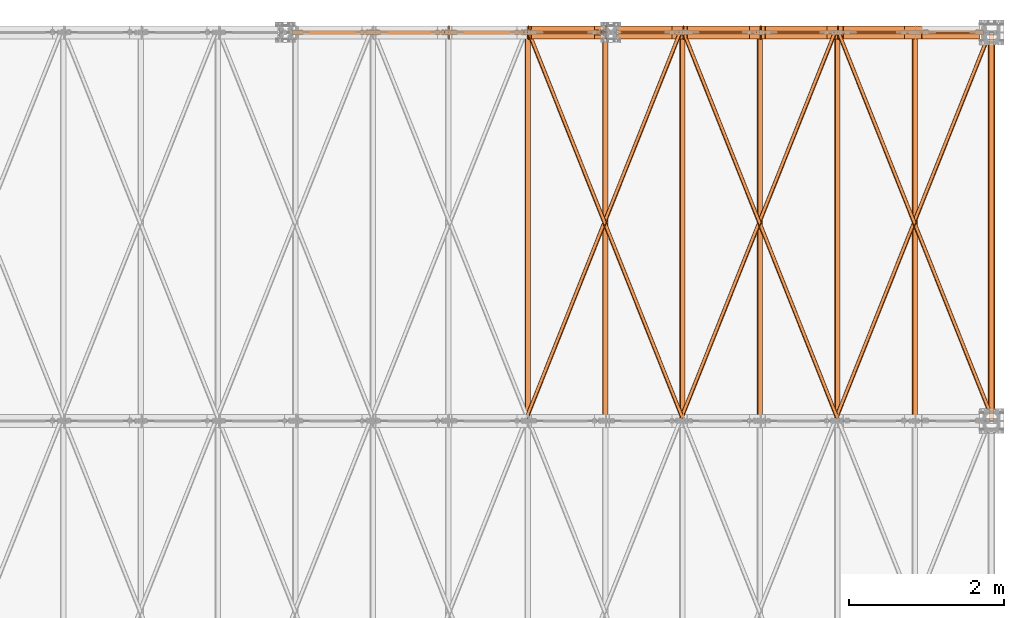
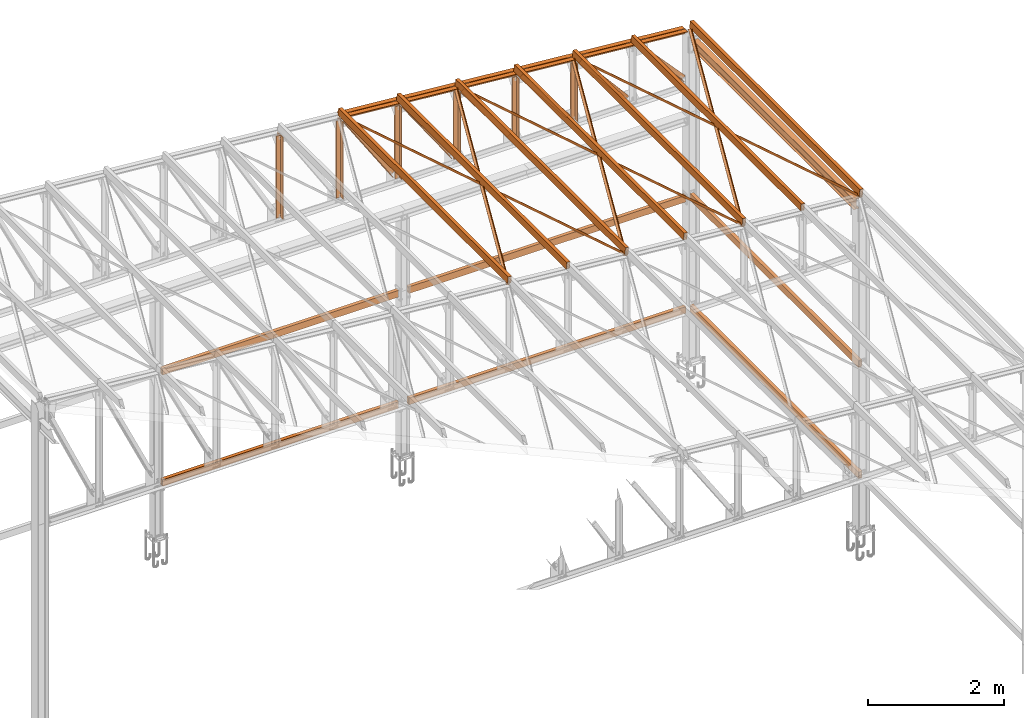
# One storey, part 245 of 251: 45 proxies.
"""IFC4 building model written with IfcOpenShell, lengths in metres."""

from ifc_helpers import new_model, si_unit, frame, frame_2d, origin_with_axes, origin_2d_with_axis, place, context, project, spatial, polyline, hollow_rectangle, i_section, l_section, outline, extrude, clip, halfspace, material, material_profile, profile_set, profile_usage, type_object, element, save


model = new_model("IFC4")

# Units and contexts
model_context = context("Model", 3, precision=1e-05, world=origin_with_axes())
ifc_project = project(units=[si_unit("LENGTHUNIT", "METRE"), si_unit("AREAUNIT", "SQUARE_METRE"), si_unit("VOLUMEUNIT", "CUBIC_METRE"), si_unit("MASSUNIT", "GRAM", prefix="KILO"), si_unit("TIMEUNIT", "SECOND"), si_unit("PLANEANGLEUNIT", "RADIAN"), si_unit("SOLIDANGLEUNIT", "STERADIAN"), si_unit("THERMODYNAMICTEMPERATUREUNIT", "DEGREE_CELSIUS")], contexts=[model_context])

# Site, building, storey
placement_1 = place(None, origin_with_axes())
site = spatial("IfcSite", under=ifc_project, at=placement_1, Name="Italia", CompositionType="ELEMENT")
building = spatial("IfcBuilding", under=site, at=placement_1, Name="Deposito", CompositionType="ELEMENT")
storey = spatial("IfcBuildingStorey", under=building, at=placement_1, Name="Storey 0", CompositionType="ELEMENT", Elevation=0.0)

# Proxies
ifc_material = material(Name="Acciaio", Category="Acciaio")
ifc_material_profile = material_profile(ifc_material, i_section(OverallWidth=0.2, OverallDepth=0.19, WebThickness=0.006, FlangeThickness=0.01, FilletRadius=0.018, at=origin_2d_with_axis()), Name="7 PILASTRO HEA200")
ifc_profile_set = profile_set([ifc_material_profile])
ifc_profile_usage_1 = profile_usage(ifc_profile_set, cardinal=2)
member_type_1 = type_object("IfcMemberType", Name="5 2L80x8", PredefinedType="MEMBER", material=ifc_profile_usage_1)
placement_2 = place(placement_1, origin_with_axes())
proxy_1_placement = place(placement_2, origin_with_axes())
element("IfcBuildingElementProxy", 1, at=proxy_1_placement, inside=storey, type_object=member_type_1, Name="230075", context=model_context, shape_type="SweptSolid", body=[
    extrude(outline(polyline([(0.0, 0.0), (0.0799999, 0.0), (0.0799999, -0.00800085), (0.00800133, -0.00800085), (0.00800133, -0.0800004), (0.0, -0.0800004), (0.0, 0.0)])), frame((14.0298, 20.005, 6.54493), z_axis=(0.99619472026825, 0.0, -0.087155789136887), x_axis=(0.0, 1.0, 0.0)), (0.0, 0.0, 1.0), 5.89033),
])
ifc_profile_usage_2 = profile_usage(ifc_profile_set, cardinal=2)
member_type_2 = type_object("IfcMemberType", Name="5 2L80x8", PredefinedType="MEMBER", material=ifc_profile_usage_2)
proxy_2_placement = place(placement_2, origin_with_axes())
element("IfcBuildingElementProxy", 2, at=proxy_2_placement, inside=storey, type_object=member_type_2, Name="230075", context=model_context, shape_type="SweptSolid", body=[
    extrude(outline(polyline([(0.0, 0.0), (-0.00800133, 0.0), (-0.00800133, 0.0719995), (-0.0799999, 0.0719995), (-0.0799999, 0.0800004), (0.0, 0.0800004), (0.0, 0.0)])), frame((14.0228, 19.995, 6.46523), z_axis=(0.99619472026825, 0.0, -0.087155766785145), x_axis=(0.0, 1.0, 0.0)), (0.0, 0.0, 1.0), 5.89033),
])
ifc_profile_usage_3 = profile_usage(ifc_profile_set, cardinal=1)
member_type_3 = type_object("IfcMemberType", Name="5 2L80x8", PredefinedType="MEMBER", material=ifc_profile_usage_3)
proxy_3_placement = place(placement_2, origin_with_axes())
element("IfcBuildingElementProxy", 3, at=proxy_3_placement, inside=storey, type_object=member_type_3, Name="100005", context=model_context, shape_type="SweptSolid", body=[
    extrude(outline(polyline([(0.0, 0.0), (-0.0799999, 0.0), (-0.0799999, 0.00799942), (-0.00800133, 0.00799942), (-0.00800133, 0.079998), (0.0, 0.079998), (0.0, 0.0)])), frame((19.0971, 19.995, 5.95199), z_axis=(0.675589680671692, 0.0, -0.737277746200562), x_axis=(0.0, 1.0, 0.0)), (0.0, 0.0, 1.0), 1.09364),
])
ifc_profile_usage_4 = profile_usage(ifc_profile_set, cardinal=1)
member_type_4 = type_object("IfcMemberType", Name="5 2L80x8", PredefinedType="MEMBER", material=ifc_profile_usage_4)
proxy_4_placement = place(placement_2, origin_with_axes())
element("IfcBuildingElementProxy", 4, at=proxy_4_placement, inside=storey, type_object=member_type_4, Name="110005", context=model_context, shape_type="SweptSolid", body=[
    extrude(outline(polyline([(0.0, 0.0), (-0.0799999, 0.0), (-0.0799999, 0.00799942), (-0.00800133, 0.00799942), (-0.00800133, 0.079998), (0.0, 0.079998), (0.0, 0.0)])), frame((18.0901, 19.995, 6.04221), z_axis=(0.646905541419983, 0.0, -0.762570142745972), x_axis=(0.0, 1.0, 0.0)), (0.0, 0.0, 1.0), 1.21365),
])
ifc_profile_usage_5 = profile_usage(ifc_profile_set, cardinal=1)
member_type_5 = type_object("IfcMemberType", Name="5 2L80x8", PredefinedType="MEMBER", material=ifc_profile_usage_5)
proxy_5_placement = place(placement_2, origin_with_axes())
element("IfcBuildingElementProxy", 5, at=proxy_5_placement, inside=storey, type_object=member_type_5, Name="110005", context=model_context, shape_type="SweptSolid", body=[
    extrude(outline(polyline([(0.0, 0.0), (0.00800133, 0.0), (0.00800133, -0.0720005), (0.0799999, -0.0720005), (0.0799999, -0.0799999), (0.0, -0.0799999), (0.0, 0.0)])), frame((18.1512, 20.005, 6.09396), z_axis=(0.646905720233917, 0.0, -0.762569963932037), x_axis=(0.0, 1.0, 0.0)), (0.0, 0.0, 1.0), 1.21365),
])
ifc_profile_usage_6 = profile_usage(ifc_profile_set, cardinal=1)
member_type_6 = type_object("IfcMemberType", Name="5 2L80x8", PredefinedType="MEMBER", material=ifc_profile_usage_6)
proxy_6_placement = place(placement_2, origin_with_axes())
element("IfcBuildingElementProxy", 6, at=proxy_6_placement, inside=storey, type_object=member_type_6, Name="77", context=model_context, shape_type="SweptSolid", body=[
    extrude(outline(polyline([(0.0, 0.0), (-0.0799999, 0.0), (-0.0799999, 0.00799942), (-0.00800133, 0.00799942), (-0.00800133, 0.0799999), (0.0, 0.0799999), (0.0, 0.0)])), frame((18.0301, 19.995, 5.06753), z_axis=(0.0, 0.0, 1.0), x_axis=(0.0, 1.0, 0.0)), (0.0, 0.0, 1.0), 1.03702),
])
ifc_profile_usage_7 = profile_usage(ifc_profile_set, cardinal=1)
member_type_7 = type_object("IfcMemberType", Name="5 2L80x8", PredefinedType="MEMBER", material=ifc_profile_usage_7)
proxy_7_placement = place(placement_2, origin_with_axes())
element("IfcBuildingElementProxy", 7, at=proxy_7_placement, inside=storey, type_object=member_type_7, Name="77", context=model_context, shape_type="SweptSolid", body=[
    extrude(outline(polyline([(0.0, 0.0), (0.00800133, 0.0), (0.00800133, -0.0720005), (0.0799999, -0.0720005), (0.0799999, -0.0799999), (0.0, -0.0799999), (0.0, 0.0)])), frame((17.9501, 20.005, 5.06753), z_axis=(0.0, 0.0, 1.0), x_axis=(0.0, 1.0, 0.0)), (0.0, 0.0, 1.0), 1.03702),
])
ifc_profile_usage_8 = profile_usage(ifc_profile_set, cardinal=1)
member_type_8 = type_object("IfcMemberType", Name="5 2L80x8", PredefinedType="MEMBER", material=ifc_profile_usage_8)
proxy_8_placement = place(placement_2, origin_with_axes())
element("IfcBuildingElementProxy", 8, at=proxy_8_placement, inside=storey, type_object=member_type_8, Name="120005", context=model_context, shape_type="SweptSolid", body=[
    extrude(outline(polyline([(0.0, 0.0), (-0.0799999, 0.0), (-0.0799999, 0.00799942), (-0.00800133, 0.00799942), (-0.00800133, 0.0799999), (0.0, 0.0799999), (0.0, 0.0)])), frame((17.0848, 19.995, 6.13218), z_axis=(0.619758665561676, 0.0, -0.784792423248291), x_axis=(0.0, 1.0, 0.0)), (0.0, 0.0, 1.0), 1.27867),
])
ifc_profile_usage_9 = profile_usage(ifc_profile_set, cardinal=1)
member_type_9 = type_object("IfcMemberType", Name="5 2L80x8", PredefinedType="MEMBER", material=ifc_profile_usage_9)
proxy_9_placement = place(placement_2, origin_with_axes())
element("IfcBuildingElementProxy", 9, at=proxy_9_placement, inside=storey, type_object=member_type_9, Name="120005", context=model_context, shape_type="SweptSolid", body=[
    extrude(outline(polyline([(0.0, 0.0), (0.00800133, 0.0), (0.00800133, -0.0720005), (0.0799999, -0.0720005), (0.0799999, -0.0799999), (0.0, -0.0799999), (0.0, 0.0)])), frame((17.1476, 20.005, 6.18176), z_axis=(0.619759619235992, 0.0, -0.784791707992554), x_axis=(0.0, 1.0, 0.0)), (0.0, 0.0, 1.0), 1.27867),
])
ifc_profile_usage_10 = profile_usage(ifc_profile_set, cardinal=1)
member_type_10 = type_object("IfcMemberType", Name="5 2L80x8", PredefinedType="MEMBER", material=ifc_profile_usage_10)
proxy_10_placement = place(placement_2, origin_with_axes())
element("IfcBuildingElementProxy", 10, at=proxy_10_placement, inside=storey, type_object=member_type_10, Name="76", context=model_context, shape_type="SweptSolid", body=[
    extrude(outline(polyline([(0.0, 0.0), (-0.0799999, 0.0), (-0.0799999, 0.00799942), (-0.00800133, 0.00799942), (-0.00800133, 0.0799999), (0.0, 0.0799999), (0.0, 0.0)])), frame((17.0339, 19.995, 5.06753), z_axis=(0.0, 0.0, 1.0), x_axis=(0.0, 1.0, 0.0)), (0.0, 0.0, 1.0), 1.12417),
])
ifc_profile_usage_11 = profile_usage(ifc_profile_set, cardinal=1)
member_type_11 = type_object("IfcMemberType", Name="5 2L80x8", PredefinedType="MEMBER", material=ifc_profile_usage_11)
proxy_11_placement = place(placement_2, origin_with_axes())
element("IfcBuildingElementProxy", 11, at=proxy_11_placement, inside=storey, type_object=member_type_11, Name="76", context=model_context, shape_type="SweptSolid", body=[
    extrude(outline(polyline([(0.0, 0.0), (0.00800133, 0.0), (0.00800133, -0.0720005), (0.0799999, -0.0720005), (0.0799999, -0.0799999), (0.0, -0.0799999), (0.0, 0.0)])), frame((16.9539, 20.005, 5.06753), z_axis=(0.0, 0.0, 1.0), x_axis=(0.0, 1.0, 0.0)), (0.0, 0.0, 1.0), 1.12417),
])
ifc_profile_usage_12 = profile_usage(ifc_profile_set, cardinal=1)
member_type_12 = type_object("IfcMemberType", Name="5 2L80x8", PredefinedType="MEMBER", material=ifc_profile_usage_12)
proxy_12_placement = place(placement_2, origin_with_axes())
element("IfcBuildingElementProxy", 12, at=proxy_12_placement, inside=storey, type_object=member_type_12, Name="130005", context=model_context, shape_type="SweptSolid", body=[
    extrude(outline(polyline([(0.0, 0.0), (-0.0799999, 0.0), (-0.0799999, 0.00800133), (-0.00800133, 0.00800133), (-0.00800133, 0.0800018), (0.0, 0.0800018), (0.0, 0.0)])), frame((16.0808, 19.995, 6.22193), z_axis=(0.594154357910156, 0.0, -0.804351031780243), x_axis=(0.0, 1.0, 0.0)), (0.0, 0.0, 1.0), 1.3443),
])
ifc_profile_usage_13 = profile_usage(ifc_profile_set, cardinal=1)
member_type_13 = type_object("IfcMemberType", Name="5 2L80x8", PredefinedType="MEMBER", material=ifc_profile_usage_13)
proxy_13_placement = place(placement_2, origin_with_axes())
element("IfcBuildingElementProxy", 13, at=proxy_13_placement, inside=storey, type_object=member_type_13, Name="130005", context=model_context, shape_type="SweptSolid", body=[
    extrude(outline(polyline([(0.0, 0.0), (0.00800133, 0.0), (0.00800133, -0.0720005), (0.0799999, -0.0720005), (0.0799999, -0.0799999), (0.0, -0.0799999), (0.0, 0.0)])), frame((16.1452, 20.005, 6.26946), z_axis=(0.594154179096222, 0.0, -0.804351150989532), x_axis=(0.0, 1.0, 0.0)), (0.0, 0.0, 1.0), 1.3443),
])
ifc_profile_usage_14 = profile_usage(ifc_profile_set, cardinal=1)
member_type_14 = type_object("IfcMemberType", Name="5 2L80x8", PredefinedType="MEMBER", material=ifc_profile_usage_14)
proxy_14_placement = place(placement_2, origin_with_axes())
element("IfcBuildingElementProxy", 14, at=proxy_14_placement, inside=storey, type_object=member_type_14, Name="75", context=model_context, shape_type="SweptSolid", body=[
    extrude(outline(polyline([(0.0, 0.0), (-0.0799999, 0.0), (-0.0799999, 0.00799942), (-0.00800133, 0.00799942), (-0.00800133, 0.079999), (0.0, 0.079999), (0.0, 0.0)])), frame((16.0377, 19.995, 5.06753), z_axis=(0.0, 0.0, 1.0), x_axis=(0.0, 1.0, 0.0)), (0.0, 0.0, 1.0), 1.21133),
])
ifc_profile_usage_15 = profile_usage(ifc_profile_set, cardinal=1)
member_type_15 = type_object("IfcMemberType", Name="5 2L80x8", PredefinedType="MEMBER", material=ifc_profile_usage_15)
proxy_15_placement = place(placement_2, origin_with_axes())
element("IfcBuildingElementProxy", 15, at=proxy_15_placement, inside=storey, type_object=member_type_15, Name="75", context=model_context, shape_type="SweptSolid", body=[
    extrude(outline(polyline([(0.0, 0.0), (0.00800133, 0.0), (0.00800133, -0.0719995), (0.0799999, -0.0719995), (0.0799999, -0.079999), (0.0, -0.079999), (0.0, 0.0)])), frame((15.9577, 20.005, 5.06753), z_axis=(0.0, 0.0, 1.0), x_axis=(0.0, 1.0, 0.0)), (0.0, 0.0, 1.0), 1.21133),
])
ifc_profile_usage_16 = profile_usage(ifc_profile_set, cardinal=1)
member_type_16 = type_object("IfcMemberType", Name="5 2L80x8", PredefinedType="MEMBER", material=ifc_profile_usage_16)
proxy_16_placement = place(placement_2, origin_with_axes())
element("IfcBuildingElementProxy", 16, at=proxy_16_placement, inside=storey, type_object=member_type_16, Name="140005", context=model_context, shape_type="SweptSolid", body=[
    extrude(outline(polyline([(0.0, 0.0), (-0.0799999, 0.0), (-0.0799999, 0.00800037), (-0.00800133, 0.00800037), (-0.00800133, 0.0800018), (0.0, 0.0800018), (0.0, 0.0)])), frame((15.0779, 19.995, 6.31149), z_axis=(0.570057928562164, 0.0, -0.821604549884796), x_axis=(0.0, 1.0, 0.0)), (0.0, 0.0, 1.0), 1.41056),
])
ifc_profile_usage_17 = profile_usage(ifc_profile_set, cardinal=1)
member_type_17 = type_object("IfcMemberType", Name="5 2L80x8", PredefinedType="MEMBER", material=ifc_profile_usage_17)
proxy_17_placement = place(placement_2, origin_with_axes())
element("IfcBuildingElementProxy", 17, at=proxy_17_placement, inside=storey, type_object=member_type_17, Name="140005", context=model_context, shape_type="SweptSolid", body=[
    extrude(outline(polyline([(0.0, 0.0), (0.00800133, 0.0), (0.00800133, -0.0720024), (0.0799999, -0.0720024), (0.0799999, -0.0800018), (0.0, -0.0800018), (0.0, 0.0)])), frame((15.1436, 20.005, 6.35709), z_axis=(0.570057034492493, 0.0, -0.821605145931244), x_axis=(0.0, 1.0, 0.0)), (0.0, 0.0, 1.0), 1.41056),
])
ifc_profile_usage_18 = profile_usage(ifc_profile_set, cardinal=1)
member_type_18 = type_object("IfcMemberType", Name="5 2L80x8", PredefinedType="MEMBER", material=ifc_profile_usage_18)
proxy_18_placement = place(placement_2, origin_with_axes())
element("IfcBuildingElementProxy", 18, at=proxy_18_placement, inside=storey, type_object=member_type_18, Name="73", context=model_context, shape_type="SweptSolid", body=[
    extrude(outline(polyline([(0.0, 0.0), (-0.0799999, 0.0), (-0.0799999, 0.00800037), (-0.00800133, 0.00800037), (-0.00800133, 0.0799999), (0.0, 0.0799999), (0.0, 0.0)])), frame((15.0415, 19.995, 5.06753), z_axis=(0.0, 0.0, 1.0), x_axis=(0.0, 1.0, 0.0)), (0.0, 0.0, 1.0), 1.29848),
])
ifc_profile_usage_19 = profile_usage(ifc_profile_set, cardinal=1)
member_type_19 = type_object("IfcMemberType", Name="5 2L80x8", PredefinedType="MEMBER", material=ifc_profile_usage_19)
proxy_19_placement = place(placement_2, origin_with_axes())
element("IfcBuildingElementProxy", 19, at=proxy_19_placement, inside=storey, type_object=member_type_19, Name="73", context=model_context, shape_type="SweptSolid", body=[
    extrude(outline(polyline([(0.0, 0.0), (0.00800133, 0.0), (0.00800133, -0.0719995), (0.0799999, -0.0719995), (0.0799999, -0.0799999), (0.0, -0.0799999), (0.0, 0.0)])), frame((14.9615, 20.005, 5.06753), z_axis=(0.0, 0.0, 1.0), x_axis=(0.0, 1.0, 0.0)), (0.0, 0.0, 1.0), 1.29848),
])
ifc_profile_usage_20 = profile_usage(ifc_profile_set, cardinal=1)
member_type_20 = type_object("IfcMemberType", Name="5 2L80x8", PredefinedType="MEMBER", material=ifc_profile_usage_20)
proxy_20_placement = place(placement_2, origin_with_axes())
element("IfcBuildingElementProxy", 20, at=proxy_20_placement, inside=storey, type_object=member_type_20, Name="150005", context=model_context, shape_type="SweptSolid", body=[
    extrude(outline(polyline([(0.0, 0.0), (-0.0799999, 0.0), (-0.0799999, 0.00800037), (-0.00800133, 0.00800037), (-0.00800133, 0.0800018), (0.0, 0.0800018), (0.0, 0.0)])), frame((14.0758, 19.995, 6.40086), z_axis=(0.547415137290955, 0.0, -0.836861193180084), x_axis=(0.0, 1.0, 0.0)), (0.0, 0.0, 1.0), 1.47743),
])
ifc_profile_usage_21 = profile_usage(ifc_profile_set, cardinal=1)
member_type_21 = type_object("IfcMemberType", Name="5 2L80x8", PredefinedType="MEMBER", material=ifc_profile_usage_21)
proxy_21_placement = place(placement_2, origin_with_axes())
element("IfcBuildingElementProxy", 21, at=proxy_21_placement, inside=storey, type_object=member_type_21, Name="150005", context=model_context, shape_type="SweptSolid", body=[
    extrude(outline(polyline([(0.0, 0.0), (0.00800133, 0.0), (0.00800133, -0.0720005), (0.0799999, -0.0720005), (0.0799999, -0.0800009), (0.0, -0.0800009), (0.0, 0.0)])), frame((14.1427, 20.005, 6.44465), z_axis=(0.547414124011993, 0.0, -0.836861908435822), x_axis=(0.0, 1.0, 0.0)), (0.0, 0.0, 1.0), 1.47743),
])
ifc_profile_usage_22 = profile_usage(ifc_profile_set, cardinal=1)
member_type_22 = type_object("IfcMemberType", Name="5 2L80x8", PredefinedType="MEMBER", material=ifc_profile_usage_22)
proxy_22_placement = place(placement_2, origin_with_axes())
element("IfcBuildingElementProxy", 22, at=proxy_22_placement, inside=storey, type_object=member_type_22, Name="72", context=model_context, shape_type="SweptSolid", body=[
    extrude(outline(polyline([(0.0, 0.0), (-0.0799999, 0.0), (-0.0799999, 0.00800037), (-0.00800133, 0.00800037), (-0.00800133, 0.0799999), (0.0, 0.0799999), (0.0, 0.0)])), frame((14.0453, 19.995, 5.06753), z_axis=(0.0, 0.0, 1.0), x_axis=(0.0, 1.0, 0.0)), (0.0, 0.0, 1.0), 1.38564),
])
ifc_profile_usage_23 = profile_usage(ifc_profile_set, cardinal=1)
member_type_23 = type_object("IfcMemberType", Name="5 2L80x8", PredefinedType="MEMBER", material=ifc_profile_usage_23)
proxy_23_placement = place(placement_2, origin_with_axes())
element("IfcBuildingElementProxy", 23, at=proxy_23_placement, inside=storey, type_object=member_type_23, Name="72", context=model_context, shape_type="SweptSolid", body=[
    extrude(outline(polyline([(0.0, 0.0), (0.00800133, 0.0), (0.00800133, -0.0719995), (0.0799999, -0.0719995), (0.0799999, -0.0799999), (0.0, -0.0799999), (0.0, 0.0)])), frame((13.9653, 20.005, 5.06753), z_axis=(0.0, 0.0, 1.0), x_axis=(0.0, 1.0, 0.0)), (0.0, 0.0, 1.0), 1.38564),
])
ifc_profile_usage_24 = profile_usage(ifc_profile_set, cardinal=1)
member_type_24 = type_object("IfcMemberType", Name="5 2L80x8", PredefinedType="MEMBER", material=ifc_profile_usage_24)
proxy_24_placement = place(placement_2, origin_with_axes())
element("IfcBuildingElementProxy", 24, at=proxy_24_placement, inside=storey, type_object=member_type_24, Name="71", context=model_context, shape_type="SweptSolid", body=[
    extrude(outline(polyline([(0.0, 0.0), (-0.0799999, 0.0), (-0.0799999, 0.00800037), (-0.00800133, 0.00800037), (-0.00800133, 0.0799999), (0.0, 0.0799999), (0.0, 0.0)])), frame((13.0225, 19.995, 5.06753), z_axis=(0.0, 0.0, 1.0), x_axis=(0.0, 1.0, 0.0)), (0.0, 0.0, 1.0), 1.47286),
])
ifc_profile_usage_25 = profile_usage(ifc_profile_set, cardinal=1)
member_type_25 = type_object("IfcMemberType", Name="5 2L80x8", PredefinedType="MEMBER", material=ifc_profile_usage_25)
proxy_25_placement = place(placement_2, origin_with_axes())
element("IfcBuildingElementProxy", 25, at=proxy_25_placement, inside=storey, type_object=member_type_25, Name="71", context=model_context, shape_type="SweptSolid", body=[
    extrude(outline(polyline([(0.0, 0.0), (0.00800133, 0.0), (0.00800133, -0.0719995), (0.0799999, -0.0719995), (0.0799999, -0.0799999), (0.0, -0.0799999), (0.0, 0.0)])), frame((12.9425, 20.005, 5.06753), z_axis=(0.0, 0.0, 1.0), x_axis=(0.0, 1.0, 0.0)), (0.0, 0.0, 1.0), 1.47286),
])
ifc_profile_usage_26 = profile_usage(ifc_profile_set, cardinal=8)
member_type_26 = type_object("IfcMemberType", Name="1 RHS120x60x8", PredefinedType="MEMBER", material=ifc_profile_usage_26)
proxy_26_placement = place(placement_2, origin_with_axes())
element("IfcBuildingElementProxy", 26, at=proxy_26_placement, inside=storey, type_object=member_type_26, Name="150029", context=model_context, shape_type="SweptSolid", body=[
    extrude(hollow_rectangle(XDim=0.06, YDim=0.12, WallThickness=0.008, at=frame_2d((0.0, 0.0), x_axis=(0.996194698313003, 0.087155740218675))), frame((14.03, 15.0, 6.60517), z_axis=(0.0, 1.0, 0.0), x_axis=(-1.0, 0.0, 0.0)), (0.0, 0.0, 1.0), 5.0),
])
ifc_profile_usage_27 = profile_usage(ifc_profile_set, cardinal=8)
member_type_27 = type_object("IfcMemberType", Name="1 RHS120x60x8", PredefinedType="MEMBER", material=ifc_profile_usage_27)
proxy_27_placement = place(placement_2, origin_with_axes())
element("IfcBuildingElementProxy", 27, at=proxy_27_placement, inside=storey, type_object=member_type_27, Name="130032", context=model_context, shape_type="SweptSolid", body=[
    extrude(hollow_rectangle(XDim=0.06, YDim=0.12, WallThickness=0.008, at=frame_2d((0.0, 0.0), x_axis=(0.996194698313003, 0.087155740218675))), frame((16.0224, 15.0, 6.43086), z_axis=(0.0, 1.0, 0.0), x_axis=(-1.0, 0.0, 0.0)), (0.0, 0.0, 1.0), 5.0),
])
ifc_profile_usage_28 = profile_usage(ifc_profile_set, cardinal=8)
member_type_28 = type_object("IfcMemberType", Name="1 RHS120x60x8", PredefinedType="MEMBER", material=ifc_profile_usage_28)
proxy_28_placement = place(placement_2, origin_with_axes())
element("IfcBuildingElementProxy", 28, at=proxy_28_placement, inside=storey, type_object=member_type_28, Name="110035", context=model_context, shape_type="SweptSolid", body=[
    extrude(hollow_rectangle(XDim=0.06, YDim=0.12, WallThickness=0.008, at=frame_2d((0.0, 0.0), x_axis=(0.996194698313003, 0.087155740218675))), frame((18.0148, 15.0, 6.25655), z_axis=(0.0, 1.0, 0.0), x_axis=(-1.0, 0.0, 0.0)), (0.0, 0.0, 1.0), 5.0),
])
ifc_profile_usage_29 = profile_usage(ifc_profile_set, cardinal=8)
member_type_29 = type_object("IfcMemberType", Name="1 RHS120x60x8", PredefinedType="MEMBER", material=ifc_profile_usage_29)
proxy_29_placement = place(placement_2, origin_with_axes())
element("IfcBuildingElementProxy", 29, at=proxy_29_placement, inside=storey, type_object=member_type_29, Name="90037", context=model_context, shape_type="SweptSolid", body=[
    extrude(hollow_rectangle(XDim=0.06, YDim=0.12, WallThickness=0.008, at=frame_2d((0.0, 0.0), x_axis=(0.996194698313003, 0.087155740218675))), frame((20.0072, 15.0, 6.08224), z_axis=(0.0, 1.0, 0.0), x_axis=(-1.0, 0.0, 0.0)), (0.0, 0.0, 1.0), 5.0),
])
ifc_profile_usage_30 = profile_usage(ifc_profile_set, cardinal=8)
member_type_30 = type_object("IfcMemberType", Name="1 RHS120x60x8", PredefinedType="MEMBER", material=ifc_profile_usage_30)
proxy_30_placement = place(placement_2, origin_with_axes())
element("IfcBuildingElementProxy", 30, at=proxy_30_placement, inside=storey, type_object=member_type_30, Name="140030", context=model_context, shape_type="SweptSolid", body=[
    extrude(hollow_rectangle(XDim=0.06, YDim=0.12, WallThickness=0.008, at=frame_2d((0.0, 0.0), x_axis=(0.996194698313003, 0.087155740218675))), frame((15.0262, 15.0, 6.51801), z_axis=(0.0, 1.0, 0.0), x_axis=(-1.0, 0.0, 0.0)), (0.0, 0.0, 1.0), 5.0),
])
ifc_profile_usage_31 = profile_usage(ifc_profile_set, cardinal=8)
member_type_31 = type_object("IfcMemberType", Name="1 RHS120x60x8", PredefinedType="MEMBER", material=ifc_profile_usage_31)
proxy_31_placement = place(placement_2, origin_with_axes())
element("IfcBuildingElementProxy", 31, at=proxy_31_placement, inside=storey, type_object=member_type_31, Name="120033", context=model_context, shape_type="SweptSolid", body=[
    extrude(hollow_rectangle(XDim=0.06, YDim=0.12, WallThickness=0.008, at=frame_2d((0.0, 0.0), x_axis=(0.996194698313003, 0.087155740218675))), frame((17.0186, 15.0, 6.3437), z_axis=(0.0, 1.0, 0.0), x_axis=(-1.0, 0.0, 0.0)), (0.0, 0.0, 1.0), 5.0),
])
ifc_profile_usage_32 = profile_usage(ifc_profile_set, cardinal=8)
member_type_32 = type_object("IfcMemberType", Name="1 RHS120x60x8", PredefinedType="MEMBER", material=ifc_profile_usage_32)
proxy_32_placement = place(placement_2, origin_with_axes())
element("IfcBuildingElementProxy", 32, at=proxy_32_placement, inside=storey, type_object=member_type_32, Name="100036", context=model_context, shape_type="SweptSolid", body=[
    extrude(hollow_rectangle(XDim=0.06, YDim=0.12, WallThickness=0.008, at=frame_2d((0.0, 0.0), x_axis=(0.996194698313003, 0.087155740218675))), frame((19.011, 15.0, 6.16939), z_axis=(0.0, 1.0, 0.0), x_axis=(-1.0, 0.0, 0.0)), (0.0, 0.0, 1.0), 5.0),
])
ifc_profile_usage_33 = profile_usage(ifc_profile_set, cardinal=5)
member_type_33 = type_object("IfcMemberType", Name="1 RHS120x60x8", PredefinedType="MEMBER", material=ifc_profile_usage_33)
proxy_33_placement = place(placement_2, frame((20.0, 12.5, 1.0), z_axis=(0.0, 0.0, 1.0), x_axis=(1.0, 0.0, 0.0)))
element("IfcBuildingElementProxy", 33, at=proxy_33_placement, inside=storey, type_object=member_type_33, Name="280177", context=model_context, shape_type="Clipping", body=[
    clip(clip(extrude(hollow_rectangle(XDim=0.06, YDim=0.12, WallThickness=0.008, at=origin_2d_with_axis()), frame((0.0, 0.0, 0.0), z_axis=(0.0, 1.0, 0.0), x_axis=(-1.0, 0.0, 0.0)), (0.0, 0.0, 1.0), 10.0), halfspace(frame((-0.00519943, 2.518, 0.0112001), z_axis=(0.0, -1.0, 0.0), x_axis=(1.0, 0.0, 0.0)), False)), halfspace(frame((-0.00519943, 7.482, 0.0112001), z_axis=(0.0, -1.0, 0.0), x_axis=(1.0, 0.0, 0.0)), True)),
])
ifc_profile_usage_34 = profile_usage(ifc_profile_set, cardinal=5)
member_type_34 = type_object("IfcMemberType", Name="1 RHS120x60x8", PredefinedType="MEMBER", material=ifc_profile_usage_34)
proxy_34_placement = place(placement_2, frame((20.0, 12.5, 3.0), z_axis=(0.0, 0.0, 1.0), x_axis=(1.0, 0.0, 0.0)))
element("IfcBuildingElementProxy", 34, at=proxy_34_placement, inside=storey, type_object=member_type_34, Name="280107", context=model_context, shape_type="Clipping", body=[
    clip(clip(extrude(hollow_rectangle(XDim=0.06, YDim=0.12, WallThickness=0.008, at=origin_2d_with_axis()), frame((0.0, 0.0, 0.0), z_axis=(0.0, 1.0, 0.0), x_axis=(-1.0, 0.0, 0.0)), (0.0, 0.0, 1.0), 10.0), halfspace(frame((-0.00519943, 2.518, 0.0112), z_axis=(0.0, -1.0, 0.0), x_axis=(1.0, 0.0, 0.0)), False)), halfspace(frame((-0.00519943, 7.482, 0.0112), z_axis=(0.0, -1.0, 0.0), x_axis=(1.0, 0.0, 0.0)), True)),
])
ifc_profile_usage_35 = profile_usage(ifc_profile_set, cardinal=5)
member_type_35 = type_object("IfcMemberType", Name="1 RHS120x60x8", PredefinedType="MEMBER", material=ifc_profile_usage_35)
proxy_35_placement = place(placement_2, frame((12.65000057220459, 20.0, 3.0), z_axis=(0.0, 0.0, 1.0), x_axis=(1.0, 0.0, 0.0)))
element("IfcBuildingElementProxy", 35, at=proxy_35_placement, inside=storey, type_object=member_type_35, Name="280075", context=model_context, shape_type="Clipping", body=[
    clip(clip(extrude(hollow_rectangle(XDim=0.06, YDim=0.12, WallThickness=0.008, at=origin_2d_with_axis()), frame((0.0, 0.0, 0.0), z_axis=(1.0, 0.0, 0.0), x_axis=(0.0, 1.0, 0.0)), (0.0, 0.0, 1.0), 9.8), halfspace(frame((2.536, 0.00519943, 0.0112), z_axis=(-1.0, 0.0, 0.0), x_axis=(0.0, -1.0, 0.0)), False)), halfspace(frame((7.245, 0.00519943, 0.0112), z_axis=(-1.0, 0.0, 0.0), x_axis=(0.0, -1.0, 0.0)), True)),
])
ifc_profile_usage_36 = profile_usage(ifc_profile_set, cardinal=5)
member_type_36 = type_object("IfcMemberType", Name="1 RHS120x60x8", PredefinedType="MEMBER", material=ifc_profile_usage_36)
proxy_36_placement = place(placement_2, frame((8.822500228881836, 20.0, 1.0), z_axis=(0.0, 0.0, 1.0), x_axis=(1.0, 0.0, 0.0)))
element("IfcBuildingElementProxy", 36, at=proxy_36_placement, inside=storey, type_object=member_type_36, Name="280005", context=model_context, shape_type="Clipping", body=[
    clip(clip(extrude(hollow_rectangle(XDim=0.06, YDim=0.12, WallThickness=0.008, at=origin_2d_with_axis()), frame((0.0, 0.0, 0.0), z_axis=(1.0, 0.0, 0.0), x_axis=(0.0, 1.0, 0.0)), (0.0, 0.0, 1.0), 8.37), halfspace(frame((2.1785, 0.00519943, 0.0112001), z_axis=(-1.0, 0.0, 0.0), x_axis=(0.0, -1.0, 0.0)), False)), halfspace(frame((6.1915, 0.00519943, 0.0112001), z_axis=(-1.0, 0.0, 0.0), x_axis=(0.0, -1.0, 0.0)), True)),
])
ifc_profile_usage_37 = profile_usage(ifc_profile_set, cardinal=5)
member_type_37 = type_object("IfcMemberType", Name="1 RHS120x60x8", PredefinedType="MEMBER", material=ifc_profile_usage_37)
proxy_37_placement = place(placement_2, frame((12.65000057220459, 20.0, 1.0), z_axis=(0.0, 0.0, 1.0), x_axis=(1.0, 0.0, 0.0)))
element("IfcBuildingElementProxy", 37, at=proxy_37_placement, inside=storey, type_object=member_type_37, Name="280005", context=model_context, shape_type="Clipping", body=[
    clip(clip(extrude(hollow_rectangle(XDim=0.06, YDim=0.12, WallThickness=0.008, at=origin_2d_with_axis()), frame((0.0, 0.0, 0.0), z_axis=(1.0, 0.0, 0.0), x_axis=(0.0, 1.0, 0.0)), (0.0, 0.0, 1.0), 9.8), halfspace(frame((2.536, 0.00519943, 0.0112001), z_axis=(-1.0, 0.0, 0.0), x_axis=(0.0, -1.0, 0.0)), False)), halfspace(frame((7.245, 0.00519943, 0.0112001), z_axis=(-1.0, 0.0, 0.0), x_axis=(0.0, -1.0, 0.0)), True)),
])
ifc_profile_usage_38 = profile_usage(ifc_profile_set, cardinal=5)
member_type_38 = type_object("IfcMemberType", Name="1 RHS120x60x8", PredefinedType="MEMBER", material=ifc_profile_usage_38)
proxy_38_placement = place(placement_2, frame((8.822500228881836, 20.0, 3.0), z_axis=(0.0, 0.0, 1.0), x_axis=(1.0, 0.0, 0.0)))
element("IfcBuildingElementProxy", 38, at=proxy_38_placement, inside=storey, type_object=member_type_38, Name="280075", context=model_context, shape_type="Clipping", body=[
    clip(clip(extrude(hollow_rectangle(XDim=0.06, YDim=0.12, WallThickness=0.008, at=origin_2d_with_axis()), frame((0.0, 0.0, 0.0), z_axis=(1.0, 0.0, 0.0), x_axis=(0.0, 1.0, 0.0)), (0.0, 0.0, 1.0), 8.37), halfspace(frame((2.1785, 0.00519943, 0.0112), z_axis=(-1.0, 0.0, 0.0), x_axis=(0.0, -1.0, 0.0)), False)), halfspace(frame((6.1915, 0.00519943, 0.0112), z_axis=(-1.0, 0.0, 0.0), x_axis=(0.0, -1.0, 0.0)), True)),
])
ifc_profile_usage_39 = profile_usage(ifc_profile_set, cardinal=5)
member_type_39 = type_object("IfcMemberType", Name="9 ARCARECCI IPE180", PredefinedType="MEMBER", material=ifc_profile_usage_39)
proxy_39_placement = place(placement_2, frame((20.000001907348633, 12.5, 5.800000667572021), z_axis=(0.0, 0.0, 1.0), x_axis=(1.0, 0.0, 0.0)))
element("IfcBuildingElementProxy", 39, at=proxy_39_placement, inside=storey, type_object=member_type_39, Name="280037", context=model_context, shape_type="Clipping", body=[
    clip(clip(extrude(i_section(OverallWidth=0.091, OverallDepth=0.18, WebThickness=0.0053, FlangeThickness=0.008, FilletRadius=0.009, at=origin_2d_with_axis()), frame((0.0, 0.0, 0.0), z_axis=(0.0, 1.0, 0.0), x_axis=(-1.0, 0.0, 0.0)), (0.0, 0.0, 1.0), 10.0), halfspace(frame((0.0, 2.63, -9.53674e-07), z_axis=(0.0, -1.0, 0.0), x_axis=(1.0, 0.0, 0.0)), False)), halfspace(frame((-3.8147e-06, 7.37, 0.0), z_axis=(0.0, -1.0, 0.0), x_axis=(1.0, 0.0, 0.0)), True)),
])
ifc_profile_usage_40 = profile_usage(ifc_profile_set, cardinal=5)
member_type_40 = type_object("IfcMemberType", Name="11 CONTROVENTI COPERTURA L50x5", PredefinedType="MEMBER", material=ifc_profile_usage_40)
proxy_40_placement = place(placement_2, origin_with_axes())
element("IfcBuildingElementProxy", 40, at=proxy_40_placement, inside=storey, type_object=member_type_40, Name="110061", context=model_context, shape_type="SweptSolid", body=[
    extrude(l_section(Depth=0.05, Width=0.05, Thickness=0.005, FilletRadius=0.007, EdgeRadius=0.0035, at=origin_2d_with_axis()), frame((18.0262, 20.0068, 6.1943), z_axis=(0.369977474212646, -0.928476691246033, -0.03236885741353), x_axis=(0.928963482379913, 0.370171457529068, 0.0)), (0.0, 0.0, 1.0), 5.38516),
])
ifc_profile_usage_41 = profile_usage(ifc_profile_set, cardinal=5)
member_type_41 = type_object("IfcMemberType", Name="11 CONTROVENTI COPERTURA L50x5", PredefinedType="MEMBER", material=ifc_profile_usage_41)
proxy_41_placement = place(placement_2, origin_with_axes())
element("IfcBuildingElementProxy", 41, at=proxy_41_placement, inside=storey, type_object=member_type_41, Name="170052", context=model_context, shape_type="SweptSolid", body=[
    extrude(l_section(Depth=0.05, Width=0.05, Thickness=0.005, FilletRadius=0.007, EdgeRadius=0.0035, at=origin_2d_with_axis()), frame((17.9893, 15.0073, 6.1943), z_axis=(0.369977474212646, 0.928476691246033, -0.03236885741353), x_axis=(-0.928963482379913, 0.370171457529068, 0.0)), (0.0, 0.0, 1.0), 5.38516),
])
ifc_profile_usage_42 = profile_usage(ifc_profile_set, cardinal=5)
member_type_42 = type_object("IfcMemberType", Name="11 CONTROVENTI COPERTURA L50x5", PredefinedType="MEMBER", material=ifc_profile_usage_42)
proxy_42_placement = place(placement_2, origin_with_axes())
element("IfcBuildingElementProxy", 42, at=proxy_42_placement, inside=storey, type_object=member_type_42, Name="210056", context=model_context, shape_type="SweptSolid", body=[
    extrude(l_section(Depth=0.05, Width=0.05, Thickness=0.005, FilletRadius=0.007, EdgeRadius=0.0035, at=origin_2d_with_axis()), frame((14.0045, 15.0073, 6.54292), z_axis=(0.369977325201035, 0.928476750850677, -0.032368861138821), x_axis=(-0.928963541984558, 0.370171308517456, 0.0)), (0.0, 0.0, 1.0), 5.38516),
])
ifc_profile_usage_43 = profile_usage(ifc_profile_set, cardinal=5)
member_type_43 = type_object("IfcMemberType", Name="11 CONTROVENTI COPERTURA L50x5", PredefinedType="MEMBER", material=ifc_profile_usage_43)
proxy_43_placement = place(placement_2, origin_with_axes())
element("IfcBuildingElementProxy", 43, at=proxy_43_placement, inside=storey, type_object=member_type_43, Name="130059", context=model_context, shape_type="SweptSolid", body=[
    extrude(l_section(Depth=0.05, Width=0.05, Thickness=0.005, FilletRadius=0.007, EdgeRadius=0.0035, at=origin_2d_with_axis()), frame((16.0338, 20.0068, 6.36861), z_axis=(0.369977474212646, -0.928476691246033, -0.032368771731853), x_axis=(0.928963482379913, 0.370171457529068, 0.0)), (0.0, 0.0, 1.0), 5.38516),
])
ifc_profile_usage_44 = profile_usage(ifc_profile_set, cardinal=5)
member_type_44 = type_object("IfcMemberType", Name="11 CONTROVENTI COPERTURA L50x5", PredefinedType="MEMBER", material=ifc_profile_usage_44)
proxy_44_placement = place(placement_2, origin_with_axes())
element("IfcBuildingElementProxy", 44, at=proxy_44_placement, inside=storey, type_object=member_type_44, Name="190055", context=model_context, shape_type="SweptSolid", body=[
    extrude(l_section(Depth=0.05, Width=0.05, Thickness=0.005, FilletRadius=0.007, EdgeRadius=0.0035, at=origin_2d_with_axis()), frame((15.9969, 15.0073, 6.36861), z_axis=(0.369977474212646, 0.928476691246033, -0.032368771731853), x_axis=(-0.928963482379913, 0.370171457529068, 0.0)), (0.0, 0.0, 1.0), 5.38516),
])
ifc_profile_usage_45 = profile_usage(ifc_profile_set, cardinal=5)
member_type_45 = type_object("IfcMemberType", Name="11 CONTROVENTI COPERTURA L50x5", PredefinedType="MEMBER", material=ifc_profile_usage_45)
proxy_45_placement = place(placement_2, origin_with_axes())
element("IfcBuildingElementProxy", 45, at=proxy_45_placement, inside=storey, type_object=member_type_45, Name="150058", context=model_context, shape_type="SweptSolid", body=[
    extrude(l_section(Depth=0.05, Width=0.05, Thickness=0.005, FilletRadius=0.007, EdgeRadius=0.0035, at=origin_2d_with_axis()), frame((14.0414, 20.0068, 6.54292), z_axis=(0.369977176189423, -0.928476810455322, -0.032368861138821), x_axis=(0.928963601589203, 0.370171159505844, 0.0)), (0.0, 0.0, 1.0), 5.38516),
])

save(model, "model.ifc")
